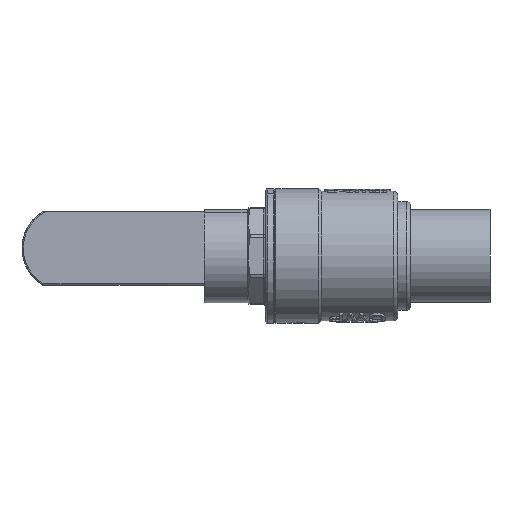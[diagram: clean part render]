
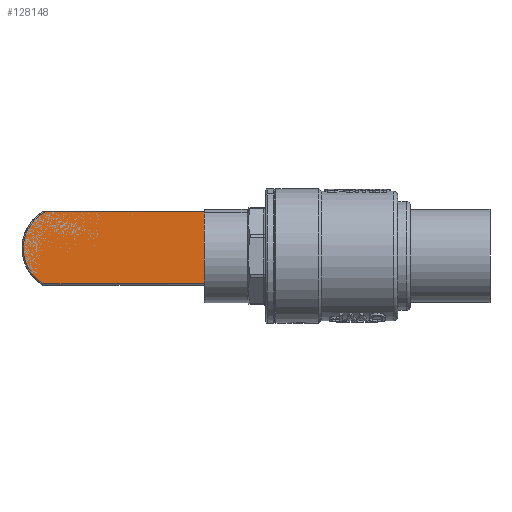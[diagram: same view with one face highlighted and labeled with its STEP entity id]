
A CAD part, front view. The second image highlights one B-rep face of the part: STEP entity #128148.
In plain terms, the highlighted planar face has unit normal (0, -1, 0).
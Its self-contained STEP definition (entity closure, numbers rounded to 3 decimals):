
#715 = LINE ( 'NONE', #12794, #27959 ) ;
#769 = CARTESIAN_POINT ( 'NONE',  ( 113.205, 20.5, 13.15 ) ) ;
#6417 = CARTESIAN_POINT ( 'NONE',  ( 49.6, 20.5, 12.65 ) ) ;
#9540 = CARTESIAN_POINT ( 'NONE',  ( 50.456, 20.5, -13.65 ) ) ;
#9676 = CARTESIAN_POINT ( 'NONE',  ( 50.456, 20.5, 13.15 ) ) ;
#12794 = CARTESIAN_POINT ( 'NONE',  ( 50.456, 20.5, 13.15 ) ) ;
#18118 = DIRECTION ( 'NONE',  ( 0., 0., 1. ) ) ;
#19774 = VERTEX_POINT ( 'NONE', #9676 ) ;
#23003 = DIRECTION ( 'NONE',  ( 0., -1., 0. ) ) ;
#23515 = EDGE_CURVE ( 'NONE', #65326, #128418, #121735, .T. ) ;
#27959 = VECTOR ( 'NONE', #53094, 1000. ) ;
#44601 = EDGE_CURVE ( 'NONE', #128520, #19774, #715, .T. ) ;
#47745 = FACE_OUTER_BOUND ( 'NONE', #74490, .T. ) ;
#50541 = ORIENTED_EDGE ( 'NONE', *, *, #23515, .T. ) ;
#53094 = DIRECTION ( 'NONE',  ( -1., 0., 0. ) ) ;
#56464 = CIRCLE ( 'NONE', #64533, 15.5 ) ;
#57539 = CARTESIAN_POINT ( 'NONE',  ( 112.344, 20.5, -13.65 ) ) ;
#63842 = VECTOR ( 'NONE', #67547, 1000. ) ;
#64533 = AXIS2_PLACEMENT_3D ( 'NONE', #92292, #23003, #103889 ) ;
#65326 = VERTEX_POINT ( 'NONE', #9540 ) ;
#67547 = DIRECTION ( 'NONE',  ( 1., 0., 0. ) ) ;
#71762 = AXIS2_PLACEMENT_3D ( 'NONE', #6417, #87412, #18118 ) ;
#74490 = EDGE_LOOP ( 'NONE', ( #50541, #113535, #85985, #110190 ) ) ;
#75820 = PLANE ( 'NONE',  #71762 ) ;
#85692 = DIRECTION ( 'NONE',  ( 0., 0., -1. ) ) ;
#85985 = ORIENTED_EDGE ( 'NONE', *, *, #44601, .T. ) ;
#86975 = VECTOR ( 'NONE', #85692, 1000. ) ;
#87412 = DIRECTION ( 'NONE',  ( 0., 1., 0. ) ) ;
#92292 = CARTESIAN_POINT ( 'NONE',  ( 105., 20.5, 0. ) ) ;
#92822 = EDGE_CURVE ( 'NONE', #128418, #128520, #56464, .T. ) ;
#103889 = DIRECTION ( 'NONE',  ( 0., 0., 1. ) ) ;
#110190 = ORIENTED_EDGE ( 'NONE', *, *, #137041, .T. ) ;
#113535 = ORIENTED_EDGE ( 'NONE', *, *, #92822, .T. ) ;
#117738 = LINE ( 'NONE', #143133, #86975 ) ;
#121735 = LINE ( 'NONE', #125131, #63842 ) ;
#125131 = CARTESIAN_POINT ( 'NONE',  ( 49.6, 20.5, -13.65 ) ) ;
#128148 = ADVANCED_FACE ( 'NONE', ( #47745 ), #75820, .F. ) ;
#128418 = VERTEX_POINT ( 'NONE', #57539 ) ;
#128520 = VERTEX_POINT ( 'NONE', #769 ) ;
#137041 = EDGE_CURVE ( 'NONE', #19774, #65326, #117738, .T. ) ;
#143133 = CARTESIAN_POINT ( 'NONE',  ( 50.456, 20.5, 12.65 ) ) ;
